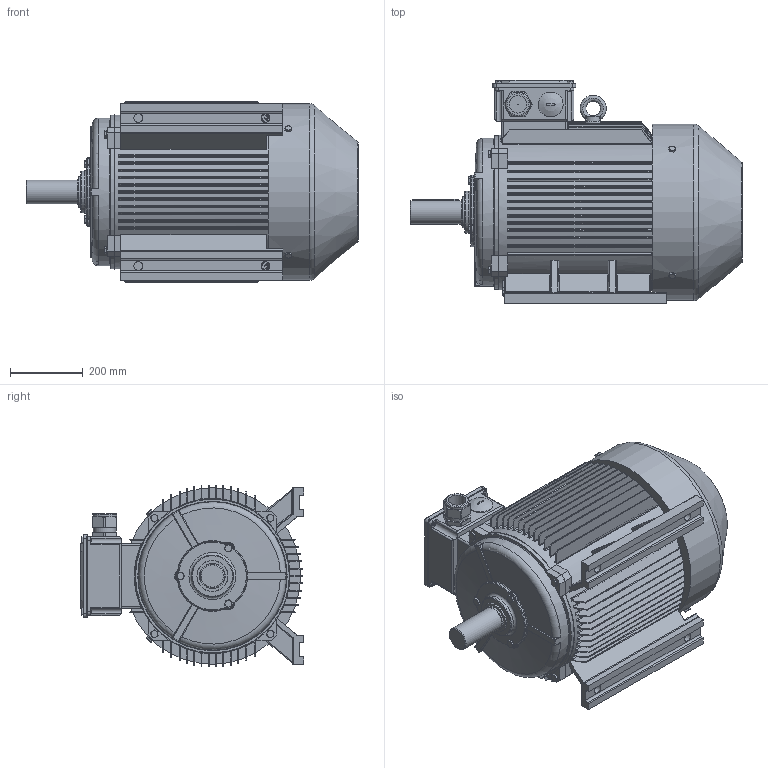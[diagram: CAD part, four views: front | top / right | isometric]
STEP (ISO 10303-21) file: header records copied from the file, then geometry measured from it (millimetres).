
FILE_DESCRIPTION((''),'2;1');
FILE_NAME('U:\Inventor 2012\121 - OMEC MOTORS\1408 - MOTOREN CAD BIBLIOTHEEK\1408 - Gereed\Step files\Step zonder Omec logo\250\OMT1-250M B3 - 6 Pole IE3.stp','2015-02-06T12:44:52',('Freek'),(''),'Autodesk Inventor 2012','Autodesk Inventor 2012','');
FILE_SCHEMA(('AUTOMOTIVE_DESIGN { 1 0 10303 214 1 1 1 1 }'));
Length unit declared in the file: millimetre
Products named in the file (1): 1408-099
Bounding box: 911.1 x 612.1 x 499.4 mm (x, y, z)
Volume: 117186339.8 mm3; surface area: 3725897.9 mm2
Topology: 5 solids, 20 shells, 2443 faces, 5950 edges, 3855 vertices
Faces by surface type: plane 1773, cylinder 375, cone 208, bspline 54, torus 27, sphere 6
Full cylindrical faces by diameter (mm): 1 x2, 8 x1, 9.188 x4, 10 x12, 11.053 x4, 11.459 x3, 12 x17, 15.4 x8, 17.2 x7, 24 x4, 48 x1, 60 x1, 63 x1, 65 x1, 66 x1, 68 x1, 70 x1, 85 x1, 85.2 x1, 115 x1, 250 x1, 406 x1, 422 x1, 484 x1
Entity records: 77968 total; most frequent: CARTESIAN_POINT 19726, ORIENTED_EDGE 11642, DIRECTION 10773, EDGE_CURVE 5821, VECTOR 4197, LINE 4197, VERTEX_POINT 3825, AXIS2_PLACEMENT_3D 3288
